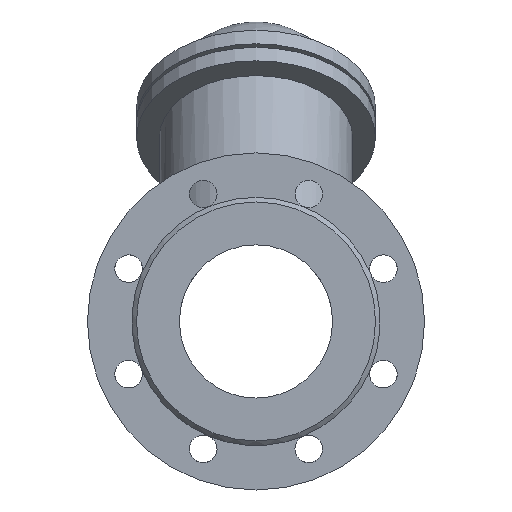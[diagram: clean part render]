
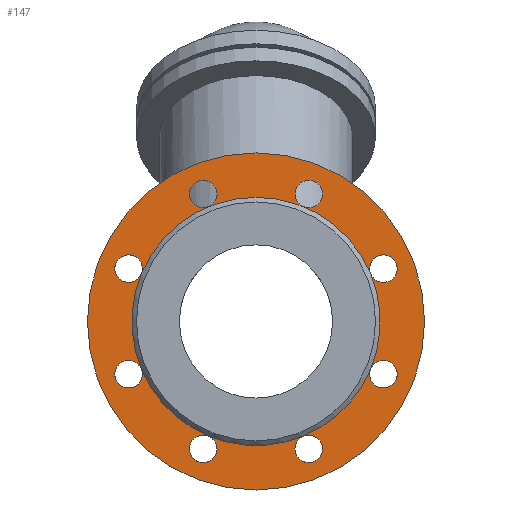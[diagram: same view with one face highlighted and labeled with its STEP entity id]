
A CAD part, front view. The second image highlights one B-rep face of the part: STEP entity #147.
In plain terms, the highlighted planar face has unit normal (0, -1, 0).
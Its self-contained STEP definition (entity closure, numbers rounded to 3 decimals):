
#147=ADVANCED_FACE('',(#553,#555,#557,#559,#561,#563,#565,#567,#569,#571),#573,.T.);
#553=FACE_BOUND('',#554,.T.);
#554=EDGE_LOOP('',(#970));
#555=FACE_BOUND('',#556,.T.);
#556=EDGE_LOOP('',(#971,#972));
#557=FACE_BOUND('',#558,.T.);
#558=EDGE_LOOP('',(#973));
#559=FACE_BOUND('',#560,.T.);
#560=EDGE_LOOP('',(#974,#975,#976,#977,#978,#979,#980));
#561=FACE_BOUND('',#562,.T.);
#562=EDGE_LOOP('',(#981));
#563=FACE_BOUND('',#564,.T.);
#564=EDGE_LOOP('',(#982,#983));
#565=FACE_BOUND('',#566,.T.);
#566=EDGE_LOOP('',(#984,#985));
#567=FACE_BOUND('',#568,.T.);
#568=EDGE_LOOP('',(#986,#987));
#569=FACE_BOUND('',#570,.T.);
#570=EDGE_LOOP('',(#988,#989));
#571=FACE_BOUND('',#572,.T.);
#572=EDGE_LOOP('',(#990,#991));
#573=PLANE('',#574);
#574=AXIS2_PLACEMENT_3D('',#575,#576,#577);
#575=CARTESIAN_POINT('',(0.,-147.,0.));
#576=DIRECTION('',(0.,-1.,0.));
#577=DIRECTION('',(0.,0.,1.));
#970=ORIENTED_EDGE('',*,*,#1138,.F.);
#971=ORIENTED_EDGE('',*,*,#1139,.T.);
#972=ORIENTED_EDGE('',*,*,#1140,.T.);
#973=ORIENTED_EDGE('',*,*,#1141,.T.);
#974=ORIENTED_EDGE('',*,*,#1116,.T.);
#975=ORIENTED_EDGE('',*,*,#1122,.T.);
#976=ORIENTED_EDGE('',*,*,#1121,.T.);
#977=ORIENTED_EDGE('',*,*,#1120,.T.);
#978=ORIENTED_EDGE('',*,*,#1119,.T.);
#979=ORIENTED_EDGE('',*,*,#1118,.T.);
#980=ORIENTED_EDGE('',*,*,#1117,.T.);
#981=ORIENTED_EDGE('',*,*,#1142,.T.);
#982=ORIENTED_EDGE('',*,*,#1143,.T.);
#983=ORIENTED_EDGE('',*,*,#1144,.T.);
#984=ORIENTED_EDGE('',*,*,#1145,.T.);
#985=ORIENTED_EDGE('',*,*,#1146,.T.);
#986=ORIENTED_EDGE('',*,*,#1147,.T.);
#987=ORIENTED_EDGE('',*,*,#1148,.T.);
#988=ORIENTED_EDGE('',*,*,#1149,.T.);
#989=ORIENTED_EDGE('',*,*,#1150,.T.);
#990=ORIENTED_EDGE('',*,*,#1151,.T.);
#991=ORIENTED_EDGE('',*,*,#1152,.T.);
#1116=EDGE_CURVE('',#1236,#1237,#1238,.T.);
#1117=EDGE_CURVE('',#1239,#1236,#1240,.T.);
#1118=EDGE_CURVE('',#1241,#1239,#1242,.T.);
#1119=EDGE_CURVE('',#1243,#1241,#1244,.T.);
#1120=EDGE_CURVE('',#1245,#1243,#1246,.T.);
#1121=EDGE_CURVE('',#1247,#1245,#1248,.T.);
#1122=EDGE_CURVE('',#1237,#1247,#1249,.T.);
#1138=EDGE_CURVE('',#1274,#1274,#1275,.T.);
#1139=EDGE_CURVE('',#1239,#1276,#1277,.F.);
#1140=EDGE_CURVE('',#1276,#1239,#1278,.F.);
#1141=EDGE_CURVE('',#1279,#1279,#1280,.F.);
#1142=EDGE_CURVE('',#1281,#1281,#1282,.F.);
#1143=EDGE_CURVE('',#1237,#1283,#1284,.F.);
#1144=EDGE_CURVE('',#1283,#1237,#1285,.F.);
#1145=EDGE_CURVE('',#1247,#1286,#1287,.F.);
#1146=EDGE_CURVE('',#1286,#1247,#1288,.F.);
#1147=EDGE_CURVE('',#1245,#1289,#1290,.F.);
#1148=EDGE_CURVE('',#1289,#1245,#1291,.F.);
#1149=EDGE_CURVE('',#1243,#1292,#1293,.F.);
#1150=EDGE_CURVE('',#1292,#1243,#1294,.F.);
#1151=EDGE_CURVE('',#1241,#1295,#1296,.F.);
#1152=EDGE_CURVE('',#1295,#1241,#1297,.F.);
#1236=VERTEX_POINT('',#1651);
#1237=VERTEX_POINT('',#1652);
#1238=CIRCLE('',#1653,81.);
#1239=VERTEX_POINT('',#1657);
#1240=CIRCLE('',#1658,81.);
#1241=VERTEX_POINT('',#1662);
#1242=CIRCLE('',#1663,81.);
#1243=VERTEX_POINT('',#1667);
#1244=CIRCLE('',#1668,81.);
#1245=VERTEX_POINT('',#1672);
#1246=CIRCLE('',#1673,81.);
#1247=VERTEX_POINT('',#1677);
#1248=CIRCLE('',#1678,81.);
#1249=CIRCLE('',#1682,81.);
#1274=VERTEX_POINT('',#1755);
#1275=CIRCLE('',#1756,110.);
#1276=VERTEX_POINT('',#1760);
#1277=CIRCLE('',#1761,9.);
#1278=CIRCLE('',#1765,9.);
#1279=VERTEX_POINT('',#1769);
#1280=CIRCLE('',#1770,9.);
#1281=VERTEX_POINT('',#1774);
#1282=CIRCLE('',#1775,9.);
#1283=VERTEX_POINT('',#1779);
#1284=CIRCLE('',#1780,9.);
#1285=CIRCLE('',#1784,9.);
#1286=VERTEX_POINT('',#1788);
#1287=CIRCLE('',#1789,9.);
#1288=CIRCLE('',#1793,9.);
#1289=VERTEX_POINT('',#1797);
#1290=CIRCLE('',#1798,9.);
#1291=CIRCLE('',#1802,9.);
#1292=VERTEX_POINT('',#1806);
#1293=CIRCLE('',#1807,9.);
#1294=CIRCLE('',#1811,9.);
#1295=VERTEX_POINT('',#1815);
#1296=CIRCLE('',#1816,9.);
#1297=CIRCLE('',#1820,9.);
#1651=CARTESIAN_POINT('',(0.,-147.,81.));
#1652=CARTESIAN_POINT('',(74.834,-147.,30.997));
#1653=AXIS2_PLACEMENT_3D('',#1654,#1655,#1656);
#1654=CARTESIAN_POINT('',(0.,-147.,0.));
#1655=DIRECTION('',(0.,1.,0.));
#1656=DIRECTION('',(0.,0.,1.));
#1657=CARTESIAN_POINT('',(-74.834,-147.,30.997));
#1658=AXIS2_PLACEMENT_3D('',#1659,#1660,#1661);
#1659=CARTESIAN_POINT('',(0.,-147.,0.));
#1660=DIRECTION('',(0.,1.,0.));
#1661=DIRECTION('',(-0.924,0.,0.383));
#1662=CARTESIAN_POINT('',(-74.834,-147.,-30.997));
#1663=AXIS2_PLACEMENT_3D('',#1664,#1665,#1666);
#1664=CARTESIAN_POINT('',(0.,-147.,0.));
#1665=DIRECTION('',(0.,1.,0.));
#1666=DIRECTION('',(-0.924,0.,-0.383));
#1667=CARTESIAN_POINT('',(-30.997,-147.,-74.834));
#1668=AXIS2_PLACEMENT_3D('',#1669,#1670,#1671);
#1669=CARTESIAN_POINT('',(0.,-147.,0.));
#1670=DIRECTION('',(0.,1.,0.));
#1671=DIRECTION('',(-0.383,0.,-0.924));
#1672=CARTESIAN_POINT('',(30.997,-147.,-74.834));
#1673=AXIS2_PLACEMENT_3D('',#1674,#1675,#1676);
#1674=CARTESIAN_POINT('',(0.,-147.,0.));
#1675=DIRECTION('',(0.,1.,0.));
#1676=DIRECTION('',(0.383,0.,-0.924));
#1677=CARTESIAN_POINT('',(74.834,-147.,-30.997));
#1678=AXIS2_PLACEMENT_3D('',#1679,#1680,#1681);
#1679=CARTESIAN_POINT('',(0.,-147.,0.));
#1680=DIRECTION('',(0.,1.,0.));
#1681=DIRECTION('',(0.924,0.,-0.383));
#1682=AXIS2_PLACEMENT_3D('',#1683,#1684,#1685);
#1683=CARTESIAN_POINT('',(0.,-147.,0.));
#1684=DIRECTION('',(0.,1.,0.));
#1685=DIRECTION('',(0.924,0.,0.383));
#1755=CARTESIAN_POINT('',(0.,-147.,110.));
#1756=AXIS2_PLACEMENT_3D('',#1757,#1758,#1759);
#1757=CARTESIAN_POINT('',(0.,-147.,0.));
#1758=DIRECTION('',(0.,1.,0.));
#1759=DIRECTION('',(0.,0.,1.));
#1760=CARTESIAN_POINT('',(-76.785,-147.,40.805));
#1761=AXIS2_PLACEMENT_3D('',#1762,#1763,#1764);
#1762=CARTESIAN_POINT('',(-83.149,-147.,34.442));
#1763=DIRECTION('',(0.,-1.,0.));
#1764=DIRECTION('',(0.707,0.,0.707));
#1765=AXIS2_PLACEMENT_3D('',#1766,#1767,#1768);
#1766=CARTESIAN_POINT('',(-83.149,-147.,34.442));
#1767=DIRECTION('',(0.,-1.,0.));
#1768=DIRECTION('',(0.924,0.,-0.383));
#1769=CARTESIAN_POINT('',(-25.442,-147.,83.149));
#1770=AXIS2_PLACEMENT_3D('',#1771,#1772,#1773);
#1771=CARTESIAN_POINT('',(-34.442,-147.,83.149));
#1772=DIRECTION('',(0.,-1.,0.));
#1773=DIRECTION('',(1.,0.,0.));
#1774=CARTESIAN_POINT('',(40.805,-147.,76.785));
#1775=AXIS2_PLACEMENT_3D('',#1776,#1777,#1778);
#1776=CARTESIAN_POINT('',(34.442,-147.,83.149));
#1777=DIRECTION('',(0.,-1.,0.));
#1778=DIRECTION('',(0.707,0.,-0.707));
#1779=CARTESIAN_POINT('',(83.149,-147.,25.442));
#1780=AXIS2_PLACEMENT_3D('',#1781,#1782,#1783);
#1781=CARTESIAN_POINT('',(83.149,-147.,34.442));
#1782=DIRECTION('',(0.,-1.,0.));
#1783=DIRECTION('',(0.,0.,-1.));
#1784=AXIS2_PLACEMENT_3D('',#1785,#1786,#1787);
#1785=CARTESIAN_POINT('',(83.149,-147.,34.442));
#1786=DIRECTION('',(0.,-1.,0.));
#1787=DIRECTION('',(-0.924,0.,-0.383));
#1788=CARTESIAN_POINT('',(76.785,-147.,-40.805));
#1789=AXIS2_PLACEMENT_3D('',#1790,#1791,#1792);
#1790=CARTESIAN_POINT('',(83.149,-147.,-34.442));
#1791=DIRECTION('',(0.,-1.,0.));
#1792=DIRECTION('',(-0.707,0.,-0.707));
#1793=AXIS2_PLACEMENT_3D('',#1794,#1795,#1796);
#1794=CARTESIAN_POINT('',(83.149,-147.,-34.442));
#1795=DIRECTION('',(0.,-1.,0.));
#1796=DIRECTION('',(-0.924,0.,0.383));
#1797=CARTESIAN_POINT('',(25.442,-147.,-83.149));
#1798=AXIS2_PLACEMENT_3D('',#1799,#1800,#1801);
#1799=CARTESIAN_POINT('',(34.442,-147.,-83.149));
#1800=DIRECTION('',(0.,-1.,0.));
#1801=DIRECTION('',(-1.,0.,0.));
#1802=AXIS2_PLACEMENT_3D('',#1803,#1804,#1805);
#1803=CARTESIAN_POINT('',(34.442,-147.,-83.149));
#1804=DIRECTION('',(0.,-1.,0.));
#1805=DIRECTION('',(-0.383,0.,0.924));
#1806=CARTESIAN_POINT('',(-40.805,-147.,-76.785));
#1807=AXIS2_PLACEMENT_3D('',#1808,#1809,#1810);
#1808=CARTESIAN_POINT('',(-34.442,-147.,-83.149));
#1809=DIRECTION('',(0.,-1.,0.));
#1810=DIRECTION('',(-0.707,0.,0.707));
#1811=AXIS2_PLACEMENT_3D('',#1812,#1813,#1814);
#1812=CARTESIAN_POINT('',(-34.442,-147.,-83.149));
#1813=DIRECTION('',(0.,-1.,0.));
#1814=DIRECTION('',(0.383,0.,0.924));
#1815=CARTESIAN_POINT('',(-83.149,-147.,-25.442));
#1816=AXIS2_PLACEMENT_3D('',#1817,#1818,#1819);
#1817=CARTESIAN_POINT('',(-83.149,-147.,-34.442));
#1818=DIRECTION('',(0.,-1.,0.));
#1819=DIRECTION('',(0.,0.,1.));
#1820=AXIS2_PLACEMENT_3D('',#1821,#1822,#1823);
#1821=CARTESIAN_POINT('',(-83.149,-147.,-34.442));
#1822=DIRECTION('',(0.,-1.,0.));
#1823=DIRECTION('',(0.924,0.,0.383));
